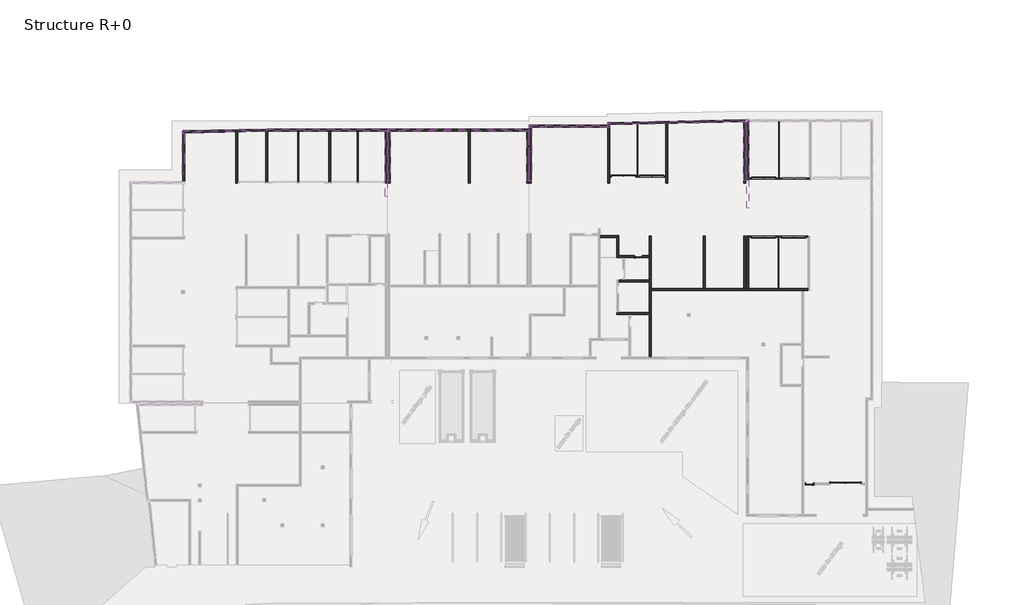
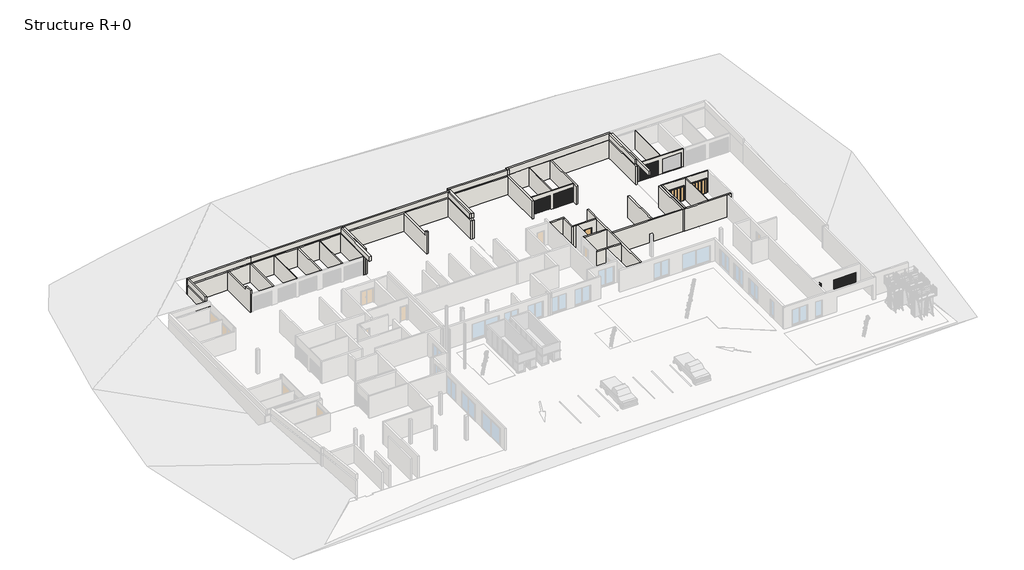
# One storey, part 4 of 8: 50 walls, 8 doors.
"""IFC4 building model written with IfcOpenShell, lengths in millimetres."""

from ifc_helpers import new_model, si_unit, frame, origin, origin_with_axes, place, context, project, spatial, polyline, outline, extrude, faceted_brep, transform, mapped, element, save
from components import door_2_4m_x_2m_ca442cef, door_3m_x_2m_7397f7c9, hb_simple_830_x_2040_mm_c83fbc24, int_simple_pp_0_83m_x_2_04m_462b1650

model = new_model("IFC4")

# Units and contexts
model_context = context("Model", 3, world=origin())
ifc_project = project(units=[si_unit("LENGTHUNIT", "METRE", prefix="MILLI")], contexts=[model_context])

# Site, building, storey
site = spatial("IfcSite", under=ifc_project)
building = spatial("IfcBuilding", under=site)
storey = spatial("IfcBuildingStorey", under=building, Name="Structure R+0", Elevation=0.0)

# Doors
placement = place(None, origin())
door_2_4m_x_2m_shape = door_2_4m_x_2m_ca442cef(model_context)
element("IfcDoor", 1, ObjectType="Garage basculante : 2.4m x 2m", at=placement, inside=storey, context=model_context, shape_type="MappedRepresentation", body=[
    mapped(door_2_4m_x_2m_shape, transform((47163.577574, 32179.2837054, -60.0), x_axis=(-1.0, 0.0, 0.0), y_axis=(0.0, -1.0, 0.0), z_axis=(0.0, 0.0, 1.0))),
])
element("IfcDoor", 2, ObjectType="Garage basculante : 2.4m x 2m", at=placement, inside=storey, context=model_context, shape_type="MappedRepresentation", body=[
    mapped(door_2_4m_x_2m_shape, transform((49956.9530308, 32179.2837054, 0.0), x_axis=(-1.0, 0.0, 0.0), y_axis=(0.0, -1.0, 0.0), z_axis=(0.0, 0.0, 1.0))),
])
element("IfcDoor", 3, ObjectType="Garage basculante : 2.4m x 2m", at=placement, inside=storey, context=model_context, shape_type="MappedRepresentation", body=[
    mapped(door_2_4m_x_2m_shape, transform((61027.3278041, 31982.2354102, 0.0), x_axis=(-1.0, 0.0, 0.0), y_axis=(0.0, -1.0, 0.0), z_axis=(0.0, 0.0, 1.0))),
])
element("IfcDoor", 4, ObjectType="Garage basculante : 2.4m x 2m", at=placement, inside=storey, context=model_context, shape_type="MappedRepresentation", body=[
    mapped(door_2_4m_x_2m_shape, transform((63996.3219312, 26916.1772446, 0.0), x_axis=(1.0, 0.0, 0.0), y_axis=(0.0, 1.0, 0.0), z_axis=(0.0, 0.0, 1.0))),
])
element("IfcDoor", 5, ObjectType="Garage basculante : 2.4m x 2m", at=placement, inside=storey, context=model_context, shape_type="MappedRepresentation", body=[
    mapped(door_2_4m_x_2m_shape, transform((61025.6076413, 26916.1772446, 0.0), x_axis=(1.0, 0.0, 0.0), y_axis=(0.0, 1.0, 0.0), z_axis=(0.0, 0.0, 1.0))),
])
door_3m_x_2m_shape = door_3m_x_2m_7397f7c9(model_context)
element("IfcDoor", 6, ObjectType="Garage basculante : 3m x 2m", at=placement, inside=storey, context=model_context, shape_type="MappedRepresentation", body=[
    mapped(door_3m_x_2m_shape, transform((69122.0236433, 1770.4780461, 0.0), x_axis=(-1.0, 0.0, 0.0), y_axis=(0.0, -1.0, 0.0), z_axis=(0.0, 0.0, 1.0))),
])
hb_simple_830_x_2040_mm_shape = hb_simple_830_x_2040_mm_c83fbc24(model_context)
element("IfcDoor", 7, ObjectType="HB-Simple : 830 x 2040 mm", at=placement, inside=storey, context=model_context, shape_type="MappedRepresentation", body=[
    mapped(hb_simple_830_x_2040_mm_shape, transform((65595.3933514, 2114.0303718, 0.0), x_axis=(-1.0, 0.0, 0.0), y_axis=(0.0, -1.0, 0.0), z_axis=(0.0, 0.0, 1.0))),
])
int_simple_pp_0_83m_x_2_04m_shape = int_simple_pp_0_83m_x_2_04m_462b1650(model_context)
element("IfcDoor", 8, ObjectType="Int. Simple : PP (0.83m x 2.04m)", at=placement, inside=storey, context=model_context, shape_type="MappedRepresentation", body=[
    mapped(int_simple_pp_0_83m_x_2_04m_shape, transform((48659.9149229, 24600.9913711, 0.0), x_axis=(1.0, 0.0, 0.0), y_axis=(0.0, 1.0, 0.0), z_axis=(0.0, 0.0, 1.0))),
])

# Walls
element("IfcWall", 9, ObjectType="Voile BA 20 + etancheite 1 + 0 enduit", at=placement, inside=storey, context=model_context, shape_type="Brep", body=[
    faceted_brep([(59082.2183923, 37936.6178833, 2710.0), (59082.2183923, 32111.2837659, 2710.0), (59082.2183923, 32111.2837659, 2720.0), (59082.2183923, 32111.2837659, 3320.0), (59082.2183923, 32111.2837659, 3330.0), (59082.2183923, 37936.6178833, 3330.0), (59292.2183923, 37941.0018036, 2710.0), (59292.2183923, 37941.0018036, 3330.0), (59292.2183923, 32111.2837659, 3330.0), (59292.2183923, 32111.2837659, 2710.0)], [[[0, 1, 2, 3, 4, 5]], [[6, 7, 8, 9]], [[1, 0, 6, 9]], [[4, 3, 2, 1, 9, 8]], [[5, 4, 8, 7]], [[0, 5, 7, 6]]]),
])
element("IfcWall", 10, ObjectType="Voile BA 20 + etancheite 1 + 0 enduit", at=placement, inside=storey, context=model_context, shape_type="Brep", body=[
    faceted_brep([(59352.998512, 37924.6162149, 2710.0), (59352.998512, 29381.5866004, 2710.0), (59352.998512, 29381.5866004, 3230.0), (59352.998512, 29381.5866004, 3330.0), (59352.998512, 37924.6162149, 3330.0), (59562.998512, 37924.6162149, 2710.0), (59562.998512, 37924.6162149, 3330.0), (59562.998512, 29381.5866004, 3330.0), (59562.998512, 29381.5866004, 3320.0), (59562.998512, 29381.5866004, 3030.0), (59562.998512, 29381.5866004, 2720.0), (59562.998512, 29381.5866004, 2710.0)], [[[0, 1, 2, 3, 4]], [[5, 6, 7, 8, 9, 10, 11]], [[1, 0, 5, 11]], [[4, 3, 7, 6]], [[0, 4, 6, 5]], [[3, 2, 1, 11, 10, 9, 8, 7]]]),
])
element("IfcWall", 11, ObjectType="Voile BA 20 + etancheite 1 + 2 enduit", at=placement, inside=storey, context=model_context, shape_type="Brep", body=[
    faceted_brep([(59288.2192671, 38150.9640726, 2510.0), (45808.577574, 37869.5656232, 2510.0), (45808.577574, 37869.5656232, 2710.0), (45808.577574, 37869.5656232, 3410.0), (59288.2192671, 38150.9640726, 3410.0), (59292.6022324, 37941.0098166, 2510.0), (59292.6022324, 37941.0098166, 3410.0), (45808.577574, 37659.5198692, 3410.0), (45808.577574, 37659.5198692, 2510.0)], [[[0, 1, 2, 3, 4]], [[5, 6, 7, 8]], [[1, 0, 5, 8]], [[4, 3, 7, 6]], [[0, 4, 6, 5]], [[3, 2, 1, 8, 7]]]),
])
element("IfcWall", 12, ObjectType="Voile BA 20 + etancheite 1 + 2 enduit", at=placement, inside=storey, context=model_context, shape_type="Brep", body=[
    faceted_brep([(45598.577574, 37390.5992191, 3410.0), (37868.7313075, 37390.5992191, 3410.0), (37868.7313075, 37390.5992191, 3330.0), (37868.7313075, 37390.5992191, 2710.0), (38078.7313075, 37390.5992191, 2710.0), (45598.577574, 37390.5992191, 2710.0), (45598.577574, 37600.5992191, 2510.0), (37868.7313075, 37600.5992191, 2510.0), (37868.7313075, 37600.5992191, 3410.0), (45598.577574, 37600.5992191, 3410.0), (45598.577574, 37580.5992191, 2510.0), (37868.7313075, 37580.5992191, 2510.0), (45598.577574, 37580.5992191, 2710.0), (37868.7313075, 37580.5992191, 2710.0)], [[[0, 1, 2, 3, 4, 5]], [[6, 7, 8, 9]], [[7, 6, 10, 11]], [[1, 0, 9, 8]], [[6, 9, 0, 5, 12, 10]], [[1, 8, 7, 11, 13, 3, 2]], [[13, 12, 5, 4, 3]], [[12, 13, 11, 10]]]),
])
element("IfcWall", 13, ObjectType="Voile BA 20 + etancheite 1 + 2 enduit", at=placement, inside=storey, context=model_context, shape_type="Brep", body=[
    faceted_brep([(45808.577574, 37370.5992191, 2710.0), (45808.577574, 37869.5656232, 2710.0), (45808.577574, 37869.5656232, 3410.0), (45808.577574, 37659.5198692, 3410.0), (45808.577574, 37370.5992191, 3410.0), (45598.577574, 37370.5992191, 2710.0), (45598.577574, 37370.5992191, 3410.0), (45598.577574, 37390.5992191, 3410.0), (45598.577574, 37600.5992191, 3410.0), (45598.577574, 37865.1817029, 3410.0), (45598.577574, 37865.1817029, 2710.0), (45598.577574, 37580.5992191, 2710.0), (45598.577574, 37390.5992191, 2710.0)], [[[0, 1, 2, 3, 4]], [[5, 6, 7, 8, 9, 10, 11, 12]], [[1, 0, 5, 12, 11, 10]], [[4, 3, 2, 9, 8, 7, 6]], [[0, 4, 6, 5]], [[2, 1, 10, 9]]]),
])
element("IfcWall", 14, ObjectType="Voile BA 20 + etancheite 1 + 0 enduit", at=placement, inside=storey, context=model_context, shape_type="Brep", body=[
    faceted_brep([(38078.7313075, 32087.4960094, 2710.0), (38078.7313075, 37390.5992191, 2710.0), (38078.7313075, 37390.5992191, 3330.0), (38078.7313075, 32087.4960094, 3330.0), (37868.7313075, 32087.4960094, 2710.0), (37868.7313075, 32087.4960094, 3230.0), (37868.7313075, 32087.4960094, 3330.0), (37868.7313075, 37390.5992191, 3330.0), (37868.7313075, 37390.5992191, 2710.0)], [[[0, 1, 2, 3]], [[4, 5, 6, 7, 8]], [[1, 0, 4, 8]], [[3, 2, 7, 6]], [[0, 3, 6, 5, 4]], [[2, 1, 8, 7]]]),
])
element("IfcWall", 15, ObjectType="Voile BA 20 + etancheite 1 + 0 enduit", at=placement, inside=storey, context=model_context, shape_type="Brep", body=[
    faceted_brep([(37808.3832806, 32107.4972516, 2710.0), (37808.3832806, 36992.4079561, 2710.0), (37808.3832806, 36992.4079561, 3330.0), (37808.3832806, 32107.4972516, 3330.0), (37598.3832806, 32107.4972516, 2710.0), (37598.3832806, 32107.4972516, 2720.0), (37598.3832806, 32107.4972516, 3030.0), (37598.3832806, 32107.4972516, 3330.0), (37598.3832806, 36992.4079561, 3330.0), (37598.3832806, 36992.4079561, 2710.0)], [[[0, 1, 2, 3]], [[4, 5, 6, 7, 8, 9]], [[1, 0, 4, 9]], [[3, 2, 8, 7]], [[0, 3, 7, 6, 5, 4]], [[2, 1, 9, 8]]]),
])
element("IfcWall", 16, ObjectType="Voile BA 20 + etancheite 1 + 2 enduit", at=placement, inside=storey, context=model_context, shape_type="Brep", body=[
    faceted_brep([(23891.9389593, 37202.4079561, 3410.0), (37799.4832806, 37202.4079561, 3410.0), (37799.4832806, 37202.4079561, 2710.0), (23891.9389593, 37202.4079561, 2710.0), (37799.4832806, 36992.4079561, 3410.0), (23891.9389593, 36992.4079561, 3410.0), (23891.9389593, 36992.4079561, 3330.0), (23891.9389593, 36992.4079561, 2710.0), (24101.9389593, 36992.4079561, 2710.0), (37598.3832806, 36992.4079561, 2710.0), (37799.4832806, 36992.4079561, 2710.0)], [[[0, 1, 2, 3]], [[4, 5, 6, 7, 8, 9, 10]], [[1, 0, 5, 4]], [[1, 4, 10, 2]], [[5, 0, 3, 7, 6]], [[3, 2, 10, 9, 8, 7]]]),
])
element("IfcWall", 17, ObjectType="Voile BA 20 + etancheite 1 + 0 enduit", at=placement, inside=storey, context=model_context, shape_type="SweptSolid", body=[
    extrude(outline(polyline([(24101.9389593, 36992.4079561), (24101.9389593, 32107.4974719), (23891.9389593, 32107.4974719), (23891.9389593, 36992.4079561), (24101.9389593, 36992.4079561)])), frame((0.0, 0.0, 2710.0), z_axis=(0.0, 0.0, 1.0), x_axis=(1.0, 0.0, 0.0)), (0.0, 0.0, 1.0), 620.0),
])
element("IfcWall", 18, ObjectType="Voile BA 20 + etancheite 1 + 0 enduit", at=placement, inside=storey, context=model_context, shape_type="Brep", body=[
    faceted_brep([(23819.3795366, 30510.6398567, 2710.0), (23819.3795366, 36992.4079561, 2710.0), (23819.3795366, 36992.4079561, 3330.0), (23819.3795366, 30510.6398567, 3330.0), (23609.3795366, 30510.6398567, 2710.0), (23609.3795366, 30510.6398567, 2720.0), (23609.3795366, 30510.6398567, 3320.0), (23609.3795366, 30510.6398567, 3330.0), (23609.3795366, 36992.4079561, 3330.0), (23609.3795366, 36992.4079561, 2710.0)], [[[0, 1, 2, 3]], [[4, 5, 6, 7, 8, 9]], [[1, 0, 4, 9]], [[3, 2, 8, 7]], [[0, 3, 7, 6, 5, 4]], [[2, 1, 9, 8]]]),
])
element("IfcWall", 19, ObjectType="Voile BA 20 + etancheite 1 + 2 enduit", at=placement, inside=storey, context=model_context, shape_type="Brep", body=[
    faceted_brep([(11903.2655763, 37202.4079561, 3410.0), (23819.4832806, 37202.4079561, 3410.0), (23819.4832806, 37202.4079561, 2510.0), (23803.2655761, 37202.4079561, 2510.0), (23803.2655761, 37202.4079561, 2710.0), (11903.2655763, 37202.4079561, 2710.0), (23819.4832806, 36992.4079561, 3410.0), (11905.3559168, 36992.4079561, 3410.0), (11905.3559168, 36992.4079561, 2710.0), (23609.3795366, 36992.4079561, 2710.0), (23803.2655761, 36992.4079561, 2710.0), (23803.2655761, 36992.4079561, 2510.0), (23819.4832806, 36992.4079561, 2510.0), (23819.4832806, 36992.4079561, 2710.0), (23819.4832806, 36992.4079561, 3330.0)], [[[0, 1, 2, 3, 4, 5]], [[6, 7, 8, 9, 10, 11, 12, 13, 14]], [[2, 12, 11, 3]], [[1, 0, 7, 6]], [[2, 1, 6, 14, 13, 12]], [[7, 0, 5, 8]], [[4, 10, 9, 8, 5]], [[10, 4, 3, 11]]]),
])
element("IfcWall", 20, ObjectType="Voile BA 20 + etancheite 1 + 2 enduit", at=placement, inside=storey, context=model_context, shape_type="Brep", body=[
    faceted_brep([(3536.9058449, 37035.8339205, 3410.0), (11903.2655763, 37202.4079561, 3410.0), (11903.2655763, 37202.4079561, 2710.0), (3556.9078335, 37036.2321596, 2710.0), (3556.9078335, 37036.2321596, 2510.0), (3536.9058449, 37035.8339205, 2510.0), (11905.3559168, 36992.4079561, 3410.0), (3746.9058449, 36829.9733972, 3410.0), (3536.9058449, 36825.7923019, 3410.0), (3536.9058449, 36825.7923019, 2710.0), (3536.9058449, 36825.7923019, 2510.0), (3556.9078335, 36826.190541, 2510.0), (3556.9078335, 36826.190541, 2710.0), (3746.9058449, 36829.9733972, 2710.0), (11905.3559168, 36992.4079561, 2710.0)], [[[0, 1, 2, 3, 4, 5]], [[6, 7, 8, 9, 10, 11, 12, 13, 14]], [[10, 5, 4, 11]], [[1, 0, 8, 7, 6]], [[0, 5, 10, 9, 8]], [[1, 6, 14, 2]], [[12, 3, 2, 14, 13]], [[3, 12, 11, 4]]]),
])
element("IfcWall", 21, ObjectType="Voile BA 20 + etancheite 1 + 2 enduit", at=placement, inside=storey, context=model_context, shape_type="Brep", body=[
    faceted_brep([(3746.9058449, 32810.6398567, 2710.0), (3746.9058449, 36829.9733972, 2710.0), (3746.9058449, 36829.9733972, 3410.0), (3746.9058449, 32810.6398567, 3410.0), (3746.9058449, 32810.6398567, 3320.0), (3746.9058449, 32810.6398567, 2720.0), (3536.9058449, 32810.6398567, 2710.0), (3536.9058449, 32810.6398567, 2720.0), (3536.9058449, 32810.6398567, 3320.0), (3536.9058449, 32810.6398567, 3410.0), (3536.9058449, 36825.7923019, 3410.0), (3536.9058449, 36825.7923019, 2710.0)], [[[0, 1, 2, 3, 4, 5]], [[6, 7, 8, 9, 10, 11]], [[1, 0, 6, 11]], [[3, 2, 10, 9]], [[0, 5, 4, 3, 9, 8, 7, 6]], [[2, 1, 11, 10]]]),
])
element("IfcWall", 22, ObjectType="Ext. Voile BA 18", at=placement, inside=storey, context=model_context, shape_type="Brep", body=[
    faceted_brep([(49724.9149229, 22272.2599127, 0.0), (47287.0291518, 22272.2599127, 0.0), (47087.0291518, 22272.2599127, 0.0), (46707.9132164, 22272.2599127, 0.0), (46707.9132164, 22272.2599127, 3030.0), (47087.0291518, 22272.2599127, 3030.0), (47287.0291518, 22272.2599127, 3030.0), (49724.9149229, 22272.2599127, 3030.0), (49724.9149229, 22092.2599127, 0.0), (49724.9149229, 22092.2599127, 3030.0), (46707.9132164, 22092.2599127, 3030.0), (46707.9132164, 22092.2599127, 0.0)], [[[0, 1, 2, 3, 4, 5, 6, 7]], [[8, 9, 10, 11]], [[3, 2, 1, 0, 8, 11]], [[7, 6, 5, 4, 10, 9]], [[4, 3, 11, 10]], [[0, 7, 9, 8]]]),
])
element("IfcWall", 23, ObjectType="Ext. Voile BA 20", at=placement, inside=storey, context=model_context, shape_type="Brep", body=[
    faceted_brep([(3556.9078335, 36836.1925228, 0.0), (3756.9078335, 36840.1745184, 0.0), (8817.5131269, 36940.9310569, 0.0), (9017.5131269, 36944.9130524, 0.0), (11803.2321127, 37000.3766553, 0.0), (11905.2563766, 37002.4079561, 0.0), (11905.2563766, 37002.4079561, 2510.0), (11803.2321127, 37000.3766553, 2510.0), (9017.5131269, 36944.9130524, 2510.0), (8817.5131269, 36940.9310569, 2510.0), (3756.9078335, 36840.1745184, 2510.0), (3556.9078335, 36836.1925228, 2510.0), (3556.9078335, 37036.2321596, 0.0), (3556.9078335, 37036.2321596, 2510.0), (11903.2655761, 37202.4079561, 2510.0), (11903.2655761, 37202.4079561, 0.0)], [[[0, 1, 2, 3, 4, 5, 6, 7, 8, 9, 10, 11]], [[12, 13, 14, 15]], [[5, 4, 3, 2, 1, 0, 12, 15]], [[11, 10, 9, 8, 7, 6, 14, 13]], [[6, 5, 15, 14]], [[0, 11, 13, 12]]]),
])
element("IfcWall", 24, ObjectType="Ext. Voile BA 20", at=placement, inside=storey, context=model_context, shape_type="Brep", body=[
    faceted_brep([(11905.2563766, 37002.4079561, 0.0), (12003.2321127, 37002.4079561, 0.0), (14936.19903, 37002.4079561, 0.0), (15036.19903, 37002.4079561, 0.0), (17999.2548774, 37002.4079561, 0.0), (18199.2548774, 37002.4079561, 0.0), (20819.3041456, 37002.4079561, 0.0), (20919.3041456, 37002.4079561, 0.0), (23603.2655761, 37002.4079561, 0.0), (23803.2655761, 37002.4079561, 0.0), (23803.2655761, 37002.4079561, 2510.0), (23603.2655761, 37002.4079561, 2510.0), (20919.3041456, 37002.4079561, 2510.0), (20819.3041456, 37002.4079561, 2510.0), (18199.2548774, 37002.4079561, 2510.0), (17999.2548774, 37002.4079561, 2510.0), (15036.19903, 37002.4079561, 2510.0), (14936.19903, 37002.4079561, 2510.0), (12003.2321127, 37002.4079561, 2510.0), (11905.2563766, 37002.4079561, 2510.0), (11903.2655761, 37202.4079561, 0.0), (11903.2655761, 37202.4079561, 2510.0), (23803.2655761, 37202.4079561, 2510.0), (23803.2655761, 37202.4079561, 0.0)], [[[0, 1, 2, 3, 4, 5, 6, 7, 8, 9, 10, 11, 12, 13, 14, 15, 16, 17, 18, 19]], [[20, 21, 22, 23]], [[9, 8, 7, 6, 5, 4, 3, 2, 1, 0, 20, 23]], [[19, 18, 17, 16, 15, 14, 13, 12, 11, 10, 22, 21]], [[0, 19, 21, 20]], [[10, 9, 23, 22]]]),
])
element("IfcWall", 25, ObjectType="Ext. Voile BA 20", at=placement, inside=storey, context=model_context, shape_type="Brep", body=[
    faceted_brep([(23603.2655761, 37002.4079561, 0.0), (23603.2655761, 31942.4079561, 0.0), (23603.2655761, 31842.4079561, 0.0), (23603.2655761, 31842.4079561, 2510.0), (23603.2655761, 31942.4079561, 2510.0), (23603.2655761, 37002.4079561, 2510.0), (23803.2655761, 37002.4079561, 0.0), (23803.2655761, 37002.4079561, 2510.0), (23803.2655761, 31842.4079561, 2510.0), (23803.2655761, 31842.4079561, 0.0)], [[[0, 1, 2, 3, 4, 5]], [[6, 7, 8, 9]], [[0, 5, 7, 6]], [[3, 2, 9, 8]], [[2, 1, 0, 6, 9]], [[5, 4, 3, 8, 7]]]),
])
element("IfcWall", 26, ObjectType="Ext. Voile BA 20", at=placement, inside=storey, context=model_context, shape_type="Brep", body=[
    faceted_brep([(24079.4832806, 37002.4079561, 0.0), (31828.7587922, 37002.4079561, 0.0), (32028.7587922, 37002.4079561, 0.0), (37808.398272, 37002.4079561, 0.0), (37808.398272, 37002.4079561, 2510.0), (32028.7587922, 37002.4079561, 2510.0), (31828.7587922, 37002.4079561, 2510.0), (24079.4832806, 37002.4079561, 2510.0), (24079.4832806, 37202.4079561, 0.0), (24079.4832806, 37202.4079561, 2510.0), (37808.398272, 37202.4079561, 2510.0), (37808.398272, 37202.4079561, 0.0)], [[[0, 1, 2, 3, 4, 5, 6, 7]], [[8, 9, 10, 11]], [[0, 7, 9, 8]], [[4, 3, 11, 10]], [[3, 2, 1, 0, 8, 11]], [[7, 6, 5, 4, 10, 9]]]),
])
element("IfcWall", 27, ObjectType="Ext. Voile BA 20", at=placement, inside=storey, context=model_context, shape_type="SweptSolid", body=[
    extrude(outline(polyline([(45618.577574, 37390.5992191), (38068.7313075, 37390.5992191), (38068.7313075, 37590.5992191), (45618.577574, 37590.5992191), (45618.577574, 37390.5992191)])), origin_with_axes(), (0.0, 0.0, 1.0), 2510.0),
])
element("IfcWall", 28, ObjectType="Ext. Voile BA 20", at=placement, inside=storey, context=model_context, shape_type="Brep", body=[
    faceted_brep([(45818.577574, 37659.9648356, 0.0), (48540.8278786, 37716.7940179, 0.0), (48610.8278786, 37718.2553247, 0.0), (51333.0781831, 37775.0845069, 0.0), (51533.0781831, 37779.2596691, 0.0), (59092.2183923, 37937.0628498, 0.0), (59292.2183923, 37941.2380119, 0.0), (59292.2183923, 37941.2380119, 2510.0), (59092.2183923, 37937.0628498, 2510.0), (51533.0781831, 37779.2596691, 2510.0), (51333.0781831, 37775.0845069, 2510.0), (48610.8278786, 37718.2553247, 2510.0), (48540.8278786, 37716.7940179, 2510.0), (45818.577574, 37659.9648356, 2510.0), (45818.577574, 37860.0084108, 0.0), (45818.577574, 37860.0084108, 2510.0), (59292.2183923, 38141.2815871, 2510.0), (59292.2183923, 38141.2815871, 0.0)], [[[0, 1, 2, 3, 4, 5, 6, 7, 8, 9, 10, 11, 12, 13]], [[14, 15, 16, 17]], [[6, 5, 4, 3, 2, 1, 0, 14, 17]], [[13, 12, 11, 10, 9, 8, 7, 16, 15]], [[0, 13, 15, 14]], [[7, 6, 17, 16]]]),
])
element("IfcWall", 29, ObjectType="Ext. Voile BA 20", at=placement, inside=storey, context=model_context, shape_type="Brep", body=[
    faceted_brep([(49924.9149229, 21216.8311178, 0.0), (59092.1504559, 21216.8311178, 0.0), (59092.1504559, 21216.8311178, 3030.0), (49924.9149229, 21216.8311178, 3030.0), (49924.9149229, 21416.8311178, 0.0), (49924.9149229, 21416.8311178, 3030.0), (55055.0088791, 21416.8311178, 3030.0), (55255.0088791, 21416.8311178, 3030.0), (59092.1504559, 21416.8311178, 3030.0), (59092.1504559, 21416.8311178, 0.0), (55255.0088791, 21416.8311178, 0.0), (55055.0088791, 21416.8311178, 0.0)], [[[0, 1, 2, 3]], [[4, 5, 6, 7, 8, 9, 10, 11]], [[1, 0, 4, 11, 10, 9]], [[3, 2, 8, 7, 6, 5]], [[2, 1, 9, 8]], [[0, 3, 5, 4]]]),
])
element("IfcWall", 30, ObjectType="Int. Brique 70 mm", at=placement, inside=storey, context=model_context, shape_type="SweptSolid", body=[
    extrude(outline(polyline([(62531.6570963, 32375.787736), (62531.6570963, 37944.6162149), (62601.6570963, 37944.6162149), (62601.6570963, 32375.787736), (62531.6570963, 32375.787736)])), origin_with_axes(), (0.0, 0.0, 1.0), 2570.0),
])
element("IfcWall", 31, ObjectType="Int. Brique 70 mm", at=placement, inside=storey, context=model_context, shape_type="SweptSolid", body=[
    extrude(outline(polyline([(48610.8278786, 37718.2553247), (48610.8278786, 32572.8360311), (48540.8278786, 32572.8360311), (48540.8278786, 37716.7940179), (48610.8278786, 37718.2553247)])), origin_with_axes(), (0.0, 0.0, 1.0), 2510.0),
])
element("IfcWall", 32, ObjectType="Int. Brique 70 mm", at=placement, inside=storey, context=model_context, shape_type="Brep", body=[
    faceted_brep([(62468.8219312, 26522.6249188, 0.0), (62468.8219312, 21416.6652274, 0.0), (62468.8219312, 21416.6652274, 3030.0), (62468.8219312, 23762.4942338, 3030.0), (62468.8219312, 24062.4942338, 3030.0), (62468.8219312, 26522.6249188, 3030.0), (62538.8219312, 26522.6249188, 0.0), (62538.8219312, 26522.6249188, 3030.0), (62538.8219312, 24062.4942338, 3030.0), (62538.8219312, 23762.4942338, 3030.0), (62538.8219312, 21416.6652274, 3030.0), (62538.8219312, 21416.6652274, 0.0)], [[[0, 1, 2, 3, 4, 5]], [[6, 7, 8, 9, 10, 11]], [[1, 0, 6, 11]], [[5, 4, 3, 2, 10, 9, 8, 7]], [[2, 1, 11, 10]], [[0, 5, 7, 6]]]),
])
element("IfcWall", 33, ObjectType="Int. Parpaing 100 mm", at=placement, inside=storey, context=model_context, shape_type="SweptSolid", body=[
    extrude(outline(polyline([(20819.3041456, 31942.4079561), (20819.3041456, 37002.4079561), (20919.3041456, 37002.4079561), (20919.3041456, 31942.4079561), (20819.3041456, 31942.4079561)])), origin_with_axes(), (0.0, 0.0, 1.0), 2510.0),
])
element("IfcWall", 34, ObjectType="Int. Parpaing 100 mm", at=placement, inside=storey, context=model_context, shape_type="SweptSolid", body=[
    extrude(outline(polyline([(14936.19903, 31942.4079561), (14936.19903, 37002.4079561), (15036.19903, 37002.4079561), (15036.19903, 31942.4079561), (14936.19903, 31942.4079561)])), origin_with_axes(), (0.0, 0.0, 1.0), 2510.0),
])
element("IfcWall", 35, ObjectType="Int. Parpaing 100 mm", at=placement, inside=storey, context=model_context, shape_type="Brep", body=[
    faceted_brep([(51333.0781831, 32472.8360311, 2510.0), (45818.577574, 32472.8360311, 2510.0), (45818.577574, 32472.8360311, -60.0), (45963.577574, 32472.8360311, -60.0), (45963.577574, 32472.8360311, 1955.0), (48393.577574, 32472.8360311, 1955.0), (48393.577574, 32472.8360311, -60.0), (51333.0781831, 32472.8360311, -60.0), (48756.9530308, 32472.8360311, 2015.0), (51186.9530308, 32472.8360311, 2015.0), (51186.9530308, 32472.8360311, 0.0), (48756.9530308, 32472.8360311, 0.0), (45818.577574, 32572.8360311, 2510.0), (48540.8278786, 32572.8360311, 2510.0), (48610.8278786, 32572.8360311, 2510.0), (51333.0781831, 32572.8360311, 2510.0), (51333.0781831, 32572.8360311, -60.0), (48393.577574, 32572.8360311, -60.0), (48393.577574, 32572.8360311, 1955.0), (45963.577574, 32572.8360311, 1955.0), (45963.577574, 32572.8360311, -60.0), (45818.577574, 32572.8360311, -60.0), (51186.9530308, 32572.8360311, 2015.0), (48756.9530308, 32572.8360311, 2015.0), (48756.9530308, 32572.8360311, 0.0), (51186.9530308, 32572.8360311, 0.0)], [[[0, 1, 2, 3, 4, 5, 6, 7], [8, 9, 10, 11]], [[12, 13, 14, 15, 16, 17, 18, 19, 20, 21], [22, 23, 24, 25]], [[16, 7, 6, 17]], [[2, 21, 20, 3]], [[1, 0, 15, 14, 13, 12]], [[0, 7, 16, 15]], [[2, 1, 12, 21]], [[4, 19, 18, 5]], [[5, 18, 17, 6]], [[19, 4, 3, 20]], [[8, 23, 22, 9]], [[10, 25, 24, 11]], [[9, 22, 25, 10]], [[23, 8, 11, 24]]]),
])
element("IfcWall", 36, ObjectType="Int. Parpaing 100 mm", at=placement, inside=storey, context=model_context, shape_type="SweptSolid", body=[
    extrude(outline(polyline([(-60.0, 59552.998512), (-60.0, 65633.9384076), (0.0, 65633.9384076), (0.0, 65533.9384076), (2510.0, 65533.9384076), (2510.0, 59552.998512), (-60.0, 59552.998512)]), holes=[polyline([(2015.0, 59827.3278041), (2015.0, 62257.3278041), (0.0, 62257.3278041), (0.0, 59827.3278041), (2015.0, 59827.3278041)]), polyline([(2015.0, 62852.7977519), (2015.0, 65282.7977519), (0.0, 65282.7977519), (0.0, 62852.7977519), (2015.0, 62852.7977519)])]), frame((0.0, 32275.787736, 0.0), z_axis=(0.0, 1.0, 0.0), x_axis=(0.0, 0.0, 1.0)), (0.0, 0.0, 1.0), 100.0),
])
element("IfcWall", 37, ObjectType="Int. Parpaing 100 mm", at=placement, inside=storey, context=model_context, shape_type="Brep", body=[
    faceted_brep([(59552.3933514, 26522.6249188, -60.0), (65413.8694348, 26522.6249188, -60.0), (65413.8694348, 26522.6249188, 3030.0), (62538.8219312, 26522.6249188, 3030.0), (62468.8219312, 26522.6249188, 3030.0), (59552.3933514, 26522.6249188, 3030.0), (62766.3219312, 26522.6249188, 2015.0), (65196.3219312, 26522.6249188, 2015.0), (65196.3219312, 26522.6249188, 0.0), (62766.3219312, 26522.6249188, 0.0), (59795.6076413, 26522.6249188, 2015.0), (62225.6076413, 26522.6249188, 2015.0), (62225.6076413, 26522.6249188, 0.0), (59795.6076413, 26522.6249188, 0.0), (65413.8694348, 26622.6249188, -60.0), (59552.3933514, 26622.6249188, -60.0), (59552.3933514, 26622.6249188, 0.0), (59552.3933514, 26622.6249188, 3030.0), (65413.8694348, 26622.6249188, 3030.0), (65413.8694348, 26622.6249188, 0.0), (65196.3219312, 26622.6249188, 2015.0), (62766.3219312, 26622.6249188, 2015.0), (62766.3219312, 26622.6249188, 0.0), (65196.3219312, 26622.6249188, 0.0), (62225.6076413, 26622.6249188, 2015.0), (59795.6076413, 26622.6249188, 2015.0), (59795.6076413, 26622.6249188, 0.0), (62225.6076413, 26622.6249188, 0.0)], [[[0, 1, 2, 3, 4, 5], [6, 7, 8, 9], [10, 11, 12, 13]], [[14, 15, 16, 17, 18, 19], [20, 21, 22, 23], [24, 25, 26, 27]], [[1, 0, 15, 14]], [[5, 4, 3, 2, 18, 17]], [[0, 5, 17, 16, 15]], [[2, 1, 14, 19, 18]], [[20, 7, 6, 21]], [[22, 9, 8, 23]], [[21, 6, 9, 22]], [[7, 20, 23, 8]], [[24, 11, 10, 25]], [[26, 13, 12, 27]], [[25, 10, 13, 26]], [[11, 24, 27, 12]]]),
])
element("IfcWall", 38, ObjectType="Voile BA 20", at=placement, inside=storey, context=model_context, shape_type="SweptSolid", body=[
    extrude(outline(polyline([(3756.9078335, 36840.1745184), (3756.9078335, 32028.092309), (3556.9078335, 32028.092309), (3556.9078335, 36836.1925228), (3756.9078335, 36840.1745184)])), origin_with_axes(), (0.0, 0.0, 1.0), 2510.0),
])
element("IfcWall", 39, ObjectType="Voile BA 20", at=placement, inside=storey, context=model_context, shape_type="Brep", body=[
    faceted_brep([(8817.5131269, 36940.9310569, 0.0), (8817.5131269, 31842.4079561, 0.0), (8817.5131269, 31842.4079561, 3030.0), (8817.5131269, 32810.6398567, 3030.0), (8817.5131269, 32810.6398567, 2510.0), (8817.5131269, 36940.9310569, 2510.0), (9017.5131269, 36944.9130524, 0.0), (9017.5131269, 36944.9130524, 2510.0), (9017.5131269, 32810.6398567, 2510.0), (9017.5131269, 32810.6398567, 3030.0), (9017.5131269, 31842.4079561, 3030.0), (9017.5131269, 31842.4079561, 2510.0), (9017.5131269, 31842.4079561, 0.0), (9017.5131269, 31942.4079561, 0.0)], [[[0, 1, 2, 3, 4, 5]], [[6, 7, 8, 9, 10, 11, 12, 13]], [[1, 0, 6, 13, 12]], [[2, 1, 12, 11, 10]], [[3, 2, 10, 9]], [[3, 9, 8, 4]], [[0, 5, 7, 6]], [[7, 5, 4, 8]]]),
])
element("IfcWall", 40, ObjectType="Voile BA 20", at=placement, inside=storey, context=model_context, shape_type="SweptSolid", body=[
    extrude(outline(polyline([(11803.2321127, 31942.4079561), (11803.2321127, 37000.3766553), (11905.2563766, 37002.4079561), (12003.2321127, 37002.4079561), (12003.2321127, 31942.4079561), (11803.2321127, 31942.4079561)])), origin_with_axes(), (0.0, 0.0, 1.0), 2510.0),
])
element("IfcWall", 41, ObjectType="Voile BA 20", at=placement, inside=storey, context=model_context, shape_type="SweptSolid", body=[
    extrude(outline(polyline([(17999.2548774, 31942.4079561), (17999.2548774, 37002.4079561), (18199.2548774, 37002.4079561), (18199.2548774, 31942.4079561), (17999.2548774, 31942.4079561)])), origin_with_axes(), (0.0, 0.0, 1.0), 2510.0),
])
element("IfcWall", 42, ObjectType="Voile BA 20", at=placement, inside=storey, context=model_context, shape_type="Brep", body=[
    faceted_brep([(24079.4832806, 31844.9130524, 0.0), (24079.4832806, 37002.4079561, 0.0), (24079.4832806, 37202.4079561, 0.0), (24079.4832806, 37202.4079561, 2510.0), (24079.4832806, 37002.4079561, 2510.0), (24079.4832806, 31844.9130524, 2510.0), (23879.4832806, 31844.9130524, 0.0), (23879.4832806, 31844.9130524, 2510.0), (23879.4832806, 37202.4079561, 2510.0), (23879.4832806, 37202.4079561, 0.0)], [[[0, 1, 2, 3, 4, 5]], [[6, 7, 8, 9]], [[3, 2, 9, 8]], [[2, 1, 0, 6, 9]], [[5, 4, 3, 8, 7]], [[0, 5, 7, 6]]]),
])
element("IfcWall", 43, ObjectType="Voile BA 20", at=placement, inside=storey, context=model_context, shape_type="SweptSolid", body=[
    extrude(outline(polyline([(37608.398272, 31857.8938935), (37608.398272, 37002.4079561), (37808.398272, 37002.4079561), (37808.398272, 31857.8938935), (37608.398272, 31857.8938935)])), origin_with_axes(), (0.0, 0.0, 1.0), 2510.0),
])
element("IfcWall", 44, ObjectType="Voile BA 20", at=placement, inside=storey, context=model_context, shape_type="Brep", body=[
    faceted_brep([(31828.7587922, 37002.4079561, 0.0), (31828.7587922, 31857.8938935, 0.0), (31828.7587922, 31857.8938935, 3030.0), (31828.7587922, 32107.4960317, 3030.0), (31828.7587922, 32107.4974719, 2510.0), (31828.7587922, 37002.4079561, 2510.0), (32028.7587922, 37002.4079561, 0.0), (32028.7587922, 37002.4079561, 2510.0), (32028.7587922, 32107.4974719, 2510.0), (32028.7587922, 32107.4974719, 3030.0), (32028.7587922, 31857.8938935, 3030.0), (32028.7587922, 31857.8938935, 0.0)], [[[0, 1, 2, 3, 4, 5]], [[6, 7, 8, 9, 10, 11]], [[1, 0, 6, 11]], [[2, 1, 11, 10]], [[3, 2, 10, 9]], [[3, 9, 8, 4]], [[0, 5, 7, 6]], [[7, 5, 4, 8]]]),
])
element("IfcWall", 45, ObjectType="Voile BA 20", at=placement, inside=storey, context=model_context, shape_type="Brep", body=[
    faceted_brep([(38068.7313075, 31857.8938935, 0.0), (38068.7313075, 37390.5992191, 0.0), (38068.7313075, 37590.5992191, 0.0), (38068.7313075, 37590.5992191, 2510.0), (38068.7313075, 37390.5992191, 2510.0), (38068.7313075, 31857.8938935, 2510.0), (37868.7313075, 31857.8938935, 0.0), (37868.7313075, 31857.8938935, 2510.0), (37868.7313075, 37590.5992191, 2510.0), (37868.7313075, 37590.5992191, 0.0)], [[[0, 1, 2, 3, 4, 5]], [[6, 7, 8, 9]], [[2, 1, 0, 6, 9]], [[5, 4, 3, 8, 7]], [[0, 5, 7, 6]], [[3, 2, 9, 8]]]),
])
element("IfcWall", 46, ObjectType="Voile BA 20", at=placement, inside=storey, context=model_context, shape_type="Brep", body=[
    faceted_brep([(45818.577574, 31857.8990422, 0.0), (45818.577574, 37659.9648356, 0.0), (45818.577574, 37860.0084108, 0.0), (45818.577574, 37860.0084108, 2510.0), (45818.577574, 37659.9648356, 2510.0), (45818.577574, 32572.8360311, 2510.0), (45818.577574, 32472.8360311, 2510.0), (45818.577574, 31857.8990422, 2510.0), (45618.577574, 31857.8990422, 0.0), (45618.577574, 31857.8990422, 2510.0), (45618.577574, 37390.5992191, 2510.0), (45618.577574, 37590.5992191, 2510.0), (45618.577574, 37855.8332487, 2510.0), (45618.577574, 37855.8332487, 0.0), (45618.577574, 37590.5992191, 0.0), (45618.577574, 37390.5992191, 0.0)], [[[0, 1, 2, 3, 4, 5, 6, 7]], [[8, 9, 10, 11, 12, 13, 14, 15]], [[2, 1, 0, 8, 15, 14, 13]], [[7, 6, 5, 4, 3, 12, 11, 10, 9]], [[0, 7, 9, 8]], [[3, 2, 13, 12]]]),
])
element("IfcWall", 47, ObjectType="Voile BA 20", at=placement, inside=storey, context=model_context, shape_type="SweptSolid", body=[
    extrude(outline(polyline([(59092.2183923, 31859.1437413), (59092.2183923, 37937.0628498), (59292.2183923, 37941.2380119), (59292.2183923, 31859.1437413), (59092.2183923, 31859.1437413)])), origin_with_axes(), (0.0, 0.0, 1.0), 2510.0),
])
element("IfcWall", 48, ObjectType="Voile BA 20", at=placement, inside=storey, context=model_context, shape_type="Brep", body=[
    faceted_brep([(59552.998512, 32199.1437413, 0.0), (59552.998512, 37944.6162149, 0.0), (59552.998512, 38144.6162149, 0.0), (59552.998512, 38144.6162149, 2510.0), (59552.998512, 37944.6162149, 2510.0), (59552.998512, 32375.787736, 2510.0), (59552.998512, 32275.787736, 2510.0), (59552.998512, 32199.1437413, 2510.0), (59352.998512, 32199.1437413, 0.0), (59352.998512, 32199.1437413, 2510.0), (59352.998512, 38144.6162149, 2510.0), (59352.998512, 38144.6162149, 0.0)], [[[0, 1, 2, 3, 4, 5, 6, 7]], [[8, 9, 10, 11]], [[2, 1, 0, 8, 11]], [[7, 6, 5, 4, 3, 10, 9]], [[0, 7, 9, 8]], [[3, 2, 11, 10]]]),
])
element("IfcWall", 49, ObjectType="Voile BA 20", at=placement, inside=storey, context=model_context, shape_type="Brep", body=[
    faceted_brep([(65413.8694348, 21416.6652274, 0.0), (62538.8219312, 21416.6652274, 0.0), (62468.8219312, 21416.6652274, 0.0), (59552.3933514, 21416.6652274, 0.0), (59352.3933514, 21416.6652274, 0.0), (59352.3933514, 21416.6652274, 3030.0), (59552.3933514, 21416.6652274, 3030.0), (60822.5915763, 21416.6652274, 3030.0), (61122.5915763, 21416.6652274, 3030.0), (62468.8219312, 21416.6652274, 3030.0), (62538.8219312, 21416.6652274, 3030.0), (65413.8694348, 21416.6652274, 3030.0), (65413.8694348, 21216.6652274, 0.0), (65413.8694348, 21216.6652274, 3030.0), (65012.3933514, 21216.6652274, 3030.0), (64812.3933514, 21216.6652274, 3030.0), (61122.5915763, 21216.6652274, 3030.0), (60822.5915763, 21216.6652274, 3030.0), (59352.3933514, 21216.6652274, 3030.0), (59352.3933514, 21216.6652274, 0.0), (64812.3933514, 21216.6652274, 0.0), (65012.3933514, 21216.6652274, 0.0)], [[[0, 1, 2, 3, 4, 5, 6, 7, 8, 9, 10, 11]], [[12, 13, 14, 15, 16, 17, 18, 19, 20, 21]], [[4, 3, 2, 1, 0, 12, 21, 20, 19]], [[11, 10, 9, 8, 7, 6, 5, 18, 17, 16, 15, 14, 13]], [[5, 4, 19, 18]], [[0, 11, 13, 12]]]),
])
element("IfcWall", 50, ObjectType="Voile BA 20", at=placement, inside=storey, context=model_context, shape_type="Brep", body=[
    faceted_brep([(59552.3933514, 21416.6652274, 0.0), (59552.3933514, 26622.6249188, 0.0), (59552.3933514, 26622.6249188, 3030.0), (59552.3933514, 26522.6249188, 3030.0), (59552.3933514, 21416.6652274, 3030.0), (59352.3933514, 21416.6652274, 0.0), (59352.3933514, 21416.6652274, 3030.0), (59352.3933514, 26622.6249188, 3030.0), (59352.3933514, 26622.6249188, 0.0)], [[[0, 1, 2, 3, 4]], [[5, 6, 7, 8]], [[1, 0, 5, 8]], [[4, 3, 2, 7, 6]], [[0, 4, 6, 5]], [[2, 1, 8, 7]]]),
])
element("IfcWall", 51, ObjectType="Voile BA 20", at=placement, inside=storey, context=model_context, shape_type="Brep", body=[
    faceted_brep([(59092.1504559, 26622.6249157, 0.0), (59092.1504559, 21416.8311178, 0.0), (59092.1504559, 21216.8311178, 0.0), (59092.1504559, 21216.8311178, 3030.0), (59092.1504559, 21416.8311178, 3030.0), (59092.1504559, 26622.6249157, 3030.0), (59292.1504559, 26622.6249157, 0.0), (59292.1504559, 26622.6249157, 3030.0), (59292.1504559, 21216.8311178, 3030.0), (59292.1504559, 21216.8311178, 0.0)], [[[0, 1, 2, 3, 4, 5]], [[6, 7, 8, 9]], [[2, 1, 0, 6, 9]], [[5, 4, 3, 8, 7]], [[0, 5, 7, 6]], [[3, 2, 9, 8]]]),
])
element("IfcWall", 52, ObjectType="Voile BA 20", at=placement, inside=storey, context=model_context, shape_type="Brep", body=[
    faceted_brep([(44857.2462422, 26457.7796483, 0.0), (46507.3903862, 26457.7796483, 0.0), (46707.3903862, 26457.7796483, 0.0), (46707.3903862, 26457.7796483, 3030.0), (46507.3903862, 26457.7796483, 3030.0), (44857.2462422, 26457.7796483, 3030.0), (44857.2462422, 26657.7796483, 0.0), (44857.2462422, 26657.7796483, 3030.0), (46707.3903862, 26657.7796483, 3030.0), (46707.3903862, 26657.7796483, 0.0)], [[[0, 1, 2, 3, 4, 5]], [[6, 7, 8, 9]], [[2, 1, 0, 6, 9]], [[5, 4, 3, 8, 7]], [[0, 5, 7, 6]], [[3, 2, 9, 8]]]),
])
element("IfcWall", 53, ObjectType="Voile BA 20", at=placement, inside=storey, context=model_context, shape_type="Brep", body=[
    faceted_brep([(46507.3903862, 26457.7796483, 0.0), (46507.3903862, 24500.9913711, 0.0), (46507.3903862, 24500.9913711, 3030.0), (46507.3903862, 26457.7796483, 3030.0), (46707.3903862, 26457.7796483, 0.0), (46707.3903862, 26457.7796483, 3030.0), (46707.3903862, 24700.9913711, 3030.0), (46707.3903862, 24500.9913711, 3030.0), (46707.3903862, 24500.9913711, 0.0), (46707.3903862, 24700.9913711, 0.0)], [[[0, 1, 2, 3]], [[4, 5, 6, 7, 8, 9]], [[1, 0, 4, 9, 8]], [[3, 2, 7, 6, 5]], [[0, 3, 5, 4]], [[2, 1, 8, 7]]]),
])
element("IfcWall", 54, ObjectType="Voile BA 20", at=placement, inside=storey, context=model_context, shape_type="Brep", body=[
    faceted_brep([(49724.9149229, 24500.9913711, 3030.0), (47287.0291518, 24500.9913711, 3030.0), (47087.0291518, 24500.9913711, 3030.0), (46707.3903862, 24500.9913711, 3030.0), (46707.3903862, 24500.9913711, 0.0), (47087.0291518, 24500.9913711, 0.0), (47287.0291518, 24500.9913711, 0.0), (48174.9149229, 24500.9913711, 0.0), (48174.9149229, 24500.9913711, 2075.0), (49074.9149229, 24500.9913711, 2075.0), (49074.9149229, 24500.9913711, 0.0), (49724.9149229, 24500.9913711, 0.0), (46707.3903862, 24700.9913711, 3030.0), (49724.9149229, 24700.9913711, 3030.0), (49724.9149229, 24700.9913711, 0.0), (49074.9149229, 24700.9913711, 0.0), (49074.9149229, 24700.9913711, 2075.0), (48174.9149229, 24700.9913711, 2075.0), (48174.9149229, 24700.9913711, 0.0), (46707.3903862, 24700.9913711, 0.0)], [[[0, 1, 2, 3, 4, 5, 6, 7, 8, 9, 10, 11]], [[12, 13, 14, 15, 16, 17, 18, 19]], [[4, 19, 18, 7, 6, 5]], [[14, 11, 10, 15]], [[3, 2, 1, 0, 13, 12]], [[4, 3, 12, 19]], [[0, 11, 14, 13]], [[9, 16, 15, 10]], [[16, 9, 8, 17]], [[17, 8, 7, 18]]]),
])
element("IfcWall", 55, ObjectType="Voile BA 20", at=placement, inside=storey, context=model_context, shape_type="Brep", body=[
    faceted_brep([(49724.9149229, 26622.6249159, 0.0), (49724.9149229, 24700.9913711, 0.0), (49724.9149229, 24500.9913711, 0.0), (49724.9149229, 22272.2599127, 0.0), (49724.9149229, 22092.2599127, 0.0), (49724.9149229, 19065.2786309, 0.0), (49724.9149229, 18865.2786309, 0.0), (49724.9149229, 14647.8264154, 0.0), (49724.9149229, 14647.8264154, 3030.0), (49724.9149229, 18865.2786309, 3030.0), (49724.9149229, 19065.2786309, 3030.0), (49724.9149229, 22092.2599127, 3030.0), (49724.9149229, 22272.2599127, 3030.0), (49724.9149229, 24500.9913711, 3030.0), (49724.9149229, 24700.9913711, 3030.0), (49724.9149229, 26622.6249159, 3030.0), (49924.9149229, 26622.6249159, 0.0), (49924.9149229, 26622.6249159, 3030.0), (49924.9149229, 24062.4942338, 3030.0), (49924.9149229, 23762.4942338, 3030.0), (49924.9149229, 21416.8311178, 3030.0), (49924.9149229, 21216.8311178, 3030.0), (49924.9149229, 14647.8264154, 3030.0), (49924.9149229, 14647.8264154, 0.0), (49924.9149229, 21216.8311178, 0.0), (49924.9149229, 21416.8311178, 0.0)], [[[0, 1, 2, 3, 4, 5, 6, 7, 8, 9, 10, 11, 12, 13, 14, 15]], [[16, 17, 18, 19, 20, 21, 22, 23, 24, 25]], [[7, 6, 5, 4, 3, 2, 1, 0, 16, 25, 24, 23]], [[15, 14, 13, 12, 11, 10, 9, 8, 22, 21, 20, 19, 18, 17]], [[0, 15, 17, 16]], [[8, 7, 23, 22]]]),
])
element("IfcWall", 56, ObjectType="Voile BA 20", at=placement, inside=storey, context=model_context, shape_type="Brep", body=[
    faceted_brep([(46527.9132164, 18865.2786309, 0.0), (47687.5546594, 18865.2786309, 0.0), (47887.5546594, 18865.2786309, 0.0), (49724.9149229, 18865.2786309, 0.0), (49724.9149229, 18865.2786309, 3030.0), (47887.5546594, 18865.2786309, 3030.0), (47687.5546594, 18865.2786309, 3030.0), (46527.9132164, 18865.2786309, 3030.0), (46527.9132164, 19065.2786309, 0.0), (46527.9132164, 19065.2786309, 3030.0), (46707.9132164, 19065.2786309, 3030.0), (49724.9149229, 19065.2786309, 3030.0), (49724.9149229, 19065.2786309, 0.0), (46707.9132164, 19065.2786309, 0.0)], [[[0, 1, 2, 3, 4, 5, 6, 7]], [[8, 9, 10, 11, 12, 13]], [[3, 2, 1, 0, 8, 13, 12]], [[7, 6, 5, 4, 11, 10, 9]], [[4, 3, 12, 11]], [[0, 7, 9, 8]]]),
])
element("IfcWall", 57, ObjectType="Voile BA 20", at=placement, inside=storey, context=model_context, shape_type="Brep", body=[
    faceted_brep([(55255.0088791, 21416.8311178, 0.0), (55255.0088791, 26622.6249157, 0.0), (55255.0088791, 26622.6249157, 3030.0), (55255.0088791, 24062.4942338, 3030.0), (55255.0088791, 23762.4942338, 3030.0), (55255.0088791, 22302.4949823, 3030.0), (55255.0088791, 22002.4949823, 3030.0), (55255.0088791, 21416.8311178, 3030.0), (55055.0088791, 21416.8311178, 0.0), (55055.0088791, 21416.8311178, 3030.0), (55055.0088791, 22002.4949823, 3030.0), (55055.0088791, 22302.4949823, 3030.0), (55055.0088791, 23762.4942338, 3030.0), (55055.0088791, 24062.4942338, 3030.0), (55055.0088791, 26622.6249157, 3030.0), (55055.0088791, 26622.6249157, 0.0)], [[[0, 1, 2, 3, 4, 5, 6, 7]], [[8, 9, 10, 11, 12, 13, 14, 15]], [[1, 0, 8, 15]], [[2, 1, 15, 14]], [[7, 6, 5, 4, 3, 2, 14, 13, 12, 11, 10, 9]], [[0, 7, 9, 8]]]),
])
element("IfcWall", 58, ObjectType="Voile BA 20", at=placement, inside=storey, context=model_context, shape_type="Brep", body=[
    faceted_brep([(51333.0781831, 37775.0845069, 0.0), (51333.0781831, 31877.172088, 0.0), (51333.0781831, 31877.172088, 2510.0), (51333.0781831, 32472.8360311, 2510.0), (51333.0781831, 32572.8360311, 2510.0), (51333.0781831, 37775.0845069, 2510.0), (51533.0781831, 37779.2596691, 0.0), (51533.0781831, 37779.2596691, 2510.0), (51533.0781831, 31877.172088, 2510.0), (51533.0781831, 31877.172088, 0.0)], [[[0, 1, 2, 3, 4, 5]], [[6, 7, 8, 9]], [[1, 0, 6, 9]], [[2, 1, 9, 8]], [[5, 4, 3, 2, 8, 7]], [[0, 5, 7, 6]]]),
])

save(model, "model.ifc")
